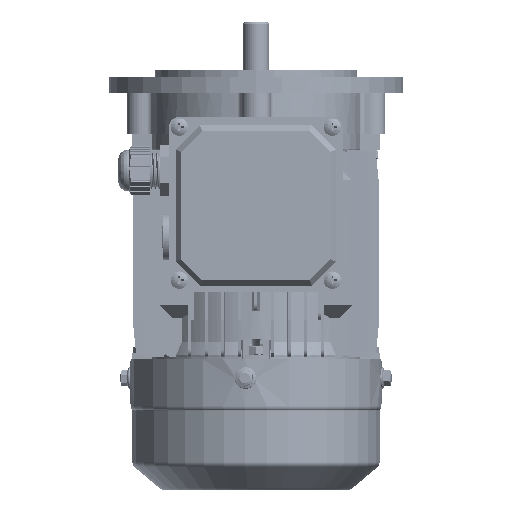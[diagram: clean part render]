
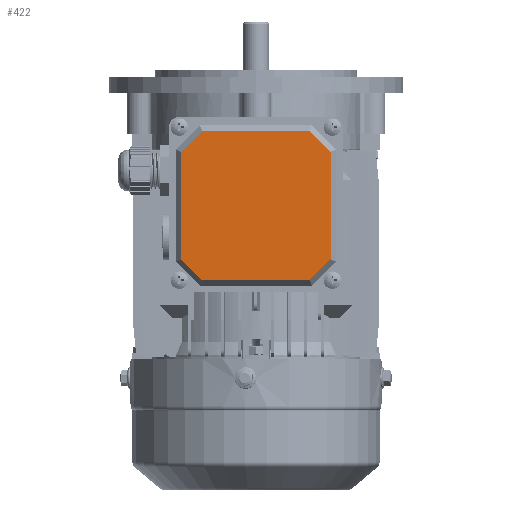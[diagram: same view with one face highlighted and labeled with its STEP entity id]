
A CAD part, left-side view. The second image highlights one B-rep face of the part: STEP entity #422.
In plain terms, the highlighted planar face has unit normal (-1, 0, 0) as drawn and (0, 1, 0) by its records, which use the part's own axes.
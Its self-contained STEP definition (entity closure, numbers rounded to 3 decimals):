
#422 = ADVANCED_FACE ( 'NONE', ( #104801 ), #75366, .F. ) ;
#3894 = CARTESIAN_POINT ( 'NONE',  ( -34.825, 6., 34.825 ) ) ;
#4143 = ORIENTED_EDGE ( 'NONE', *, *, #120064, .T. ) ;
#4417 = DIRECTION ( 'NONE',  ( 0., 0., -1. ) ) ;
#4768 = DIRECTION ( 'NONE',  ( -0.707, 0., -0.707 ) ) ;
#5431 = CARTESIAN_POINT ( 'NONE',  ( 29.15, 6., -40.5 ) ) ;
#6326 = VECTOR ( 'NONE', #55592, 1000. ) ;
#8276 = VECTOR ( 'NONE', #63746, 1000. ) ;
#8759 = CARTESIAN_POINT ( 'NONE',  ( 29.15, 6., 40.5 ) ) ;
#9901 = VERTEX_POINT ( 'NONE', #66942 ) ;
#12599 = CARTESIAN_POINT ( 'NONE',  ( -40.5, 6., -29.15 ) ) ;
#13280 = EDGE_CURVE ( 'NONE', #93241, #18064, #124916, .T. ) ;
#18064 = VERTEX_POINT ( 'NONE', #5431 ) ;
#19793 = VECTOR ( 'NONE', #31633, 1000. ) ;
#22148 = EDGE_CURVE ( 'NONE', #80790, #78186, #57881, .T. ) ;
#27093 = CARTESIAN_POINT ( 'NONE',  ( 0., 6., 0. ) ) ;
#28269 = CARTESIAN_POINT ( 'NONE',  ( -40.5, 6., 0. ) ) ;
#29075 = LINE ( 'NONE', #74905, #54808 ) ;
#29596 = ORIENTED_EDGE ( 'NONE', *, *, #68762, .T. ) ;
#30147 = LINE ( 'NONE', #62437, #58919 ) ;
#30425 = CARTESIAN_POINT ( 'NONE',  ( -29.15, 6., -40.5 ) ) ;
#31633 = DIRECTION ( 'NONE',  ( -1., 0., 0. ) ) ;
#39714 = VERTEX_POINT ( 'NONE', #30425 ) ;
#42175 = AXIS2_PLACEMENT_3D ( 'NONE', #27093, #104509, #46629 ) ;
#45630 = LINE ( 'NONE', #99315, #19793 ) ;
#46036 = VECTOR ( 'NONE', #119898, 1000. ) ;
#46629 = DIRECTION ( 'NONE',  ( 0., 0., -1. ) ) ;
#47806 = DIRECTION ( 'NONE',  ( 0., 0., 1. ) ) ;
#47845 = EDGE_CURVE ( 'NONE', #52002, #57060, #109869, .T. ) ;
#48555 = ORIENTED_EDGE ( 'NONE', *, *, #47845, .T. ) ;
#50734 = LINE ( 'NONE', #121728, #8276 ) ;
#52002 = VERTEX_POINT ( 'NONE', #12599 ) ;
#52614 = CARTESIAN_POINT ( 'NONE',  ( 40.5, 6., 29.15 ) ) ;
#52829 = ORIENTED_EDGE ( 'NONE', *, *, #109453, .T. ) ;
#54808 = VECTOR ( 'NONE', #74071, 1000. ) ;
#55592 = DIRECTION ( 'NONE',  ( 0.707, 0., -0.707 ) ) ;
#57060 = VERTEX_POINT ( 'NONE', #101034 ) ;
#57881 = LINE ( 'NONE', #113574, #6326 ) ;
#58919 = VECTOR ( 'NONE', #4417, 1000. ) ;
#59726 = EDGE_LOOP ( 'NONE', ( #102901, #52829, #118587, #4143, #117810, #48555, #106593, #29596 ) ) ;
#62437 = CARTESIAN_POINT ( 'NONE',  ( 40.5, 6., 0. ) ) ;
#63746 = DIRECTION ( 'NONE',  ( -0.707, 0., 0.707 ) ) ;
#66691 = EDGE_CURVE ( 'NONE', #39714, #52002, #50734, .T. ) ;
#66942 = CARTESIAN_POINT ( 'NONE',  ( -29.15, 6., 40.5 ) ) ;
#68762 = EDGE_CURVE ( 'NONE', #9901, #80790, #29075, .T. ) ;
#74071 = DIRECTION ( 'NONE',  ( 1., 0., 0. ) ) ;
#74777 = LINE ( 'NONE', #3894, #46036 ) ;
#74905 = CARTESIAN_POINT ( 'NONE',  ( 0., 6., 40.5 ) ) ;
#75366 = PLANE ( 'NONE',  #42175 ) ;
#77344 = CARTESIAN_POINT ( 'NONE',  ( 40.5, 6., -29.15 ) ) ;
#78050 = VECTOR ( 'NONE', #47806, 1000. ) ;
#78186 = VERTEX_POINT ( 'NONE', #52614 ) ;
#80790 = VERTEX_POINT ( 'NONE', #8759 ) ;
#87657 = EDGE_CURVE ( 'NONE', #57060, #9901, #74777, .T. ) ;
#93241 = VERTEX_POINT ( 'NONE', #77344 ) ;
#99176 = VECTOR ( 'NONE', #4768, 1000. ) ;
#99315 = CARTESIAN_POINT ( 'NONE',  ( 0., 6., -40.5 ) ) ;
#101034 = CARTESIAN_POINT ( 'NONE',  ( -40.5, 6., 29.15 ) ) ;
#101290 = CARTESIAN_POINT ( 'NONE',  ( 34.825, 6., -34.825 ) ) ;
#102901 = ORIENTED_EDGE ( 'NONE', *, *, #22148, .T. ) ;
#104509 = DIRECTION ( 'NONE',  ( 0., -1., 0. ) ) ;
#104801 = FACE_OUTER_BOUND ( 'NONE', #59726, .T. ) ;
#106593 = ORIENTED_EDGE ( 'NONE', *, *, #87657, .T. ) ;
#109453 = EDGE_CURVE ( 'NONE', #78186, #93241, #30147, .T. ) ;
#109869 = LINE ( 'NONE', #28269, #78050 ) ;
#113574 = CARTESIAN_POINT ( 'NONE',  ( 34.825, 6., 34.825 ) ) ;
#117810 = ORIENTED_EDGE ( 'NONE', *, *, #66691, .T. ) ;
#118587 = ORIENTED_EDGE ( 'NONE', *, *, #13280, .T. ) ;
#119898 = DIRECTION ( 'NONE',  ( 0.707, 0., 0.707 ) ) ;
#120064 = EDGE_CURVE ( 'NONE', #18064, #39714, #45630, .T. ) ;
#121728 = CARTESIAN_POINT ( 'NONE',  ( -34.825, 6., -34.825 ) ) ;
#124916 = LINE ( 'NONE', #101290, #99176 ) ;
